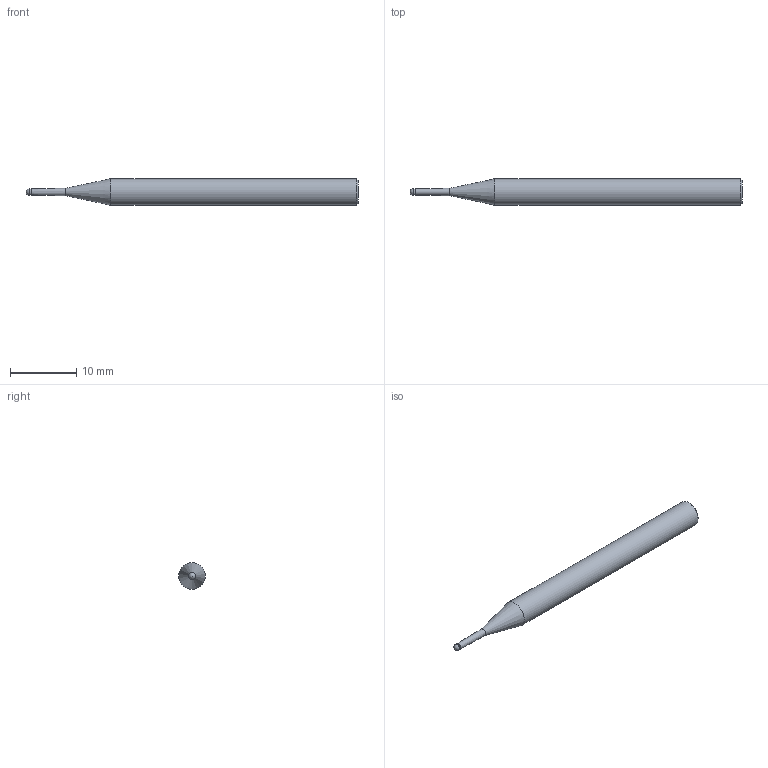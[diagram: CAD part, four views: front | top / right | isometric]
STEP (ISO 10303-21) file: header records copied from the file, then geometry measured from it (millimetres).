
FILE_DESCRIPTION(/* description */ (''),/* implementation_level */ '2;1');
FILE_NAME(/* name */ 'HGXPB2010-6-T0.9 0450.stp',/* time_stamp */ '2026-01-22T08:53:32+08:00',/* author */ (''),/* organization */ (''),/* preprocessor_version */ 'ST-DEVELOPER v16',/* originating_system */ 'SIEMENS PLM Software NX 10.0',/* authorisation */ '');
FILE_SCHEMA (('CONFIG_CONTROL_DESIGN'));
Length unit declared in the file: millimetre
Products named in the file (1): HGXPB2010-6-T0.9 0450_x_t
Bounding box: 50 x 4 x 4 mm (x, y, z)
Volume: 510.8 mm3; surface area: 553.8 mm2
Topology: 1 solids, 1 shells, 9 faces, 17 edges, 10 vertices
Faces by surface type: cylinder 3, cone 3, plane 2, sphere 1
Full cylindrical faces by diameter (mm): 0.95 x1, 1 x1, 4 x1
Entity records: 258 total; most frequent: DIRECTION 36, CARTESIAN_POINT 26, AXIS2_PLACEMENT_3D 18, EDGE_LOOP 16, ORIENTED_EDGE 16, FACE_BOUND 14, ADVANCED_FACE 9, VERTEX_POINT 8
